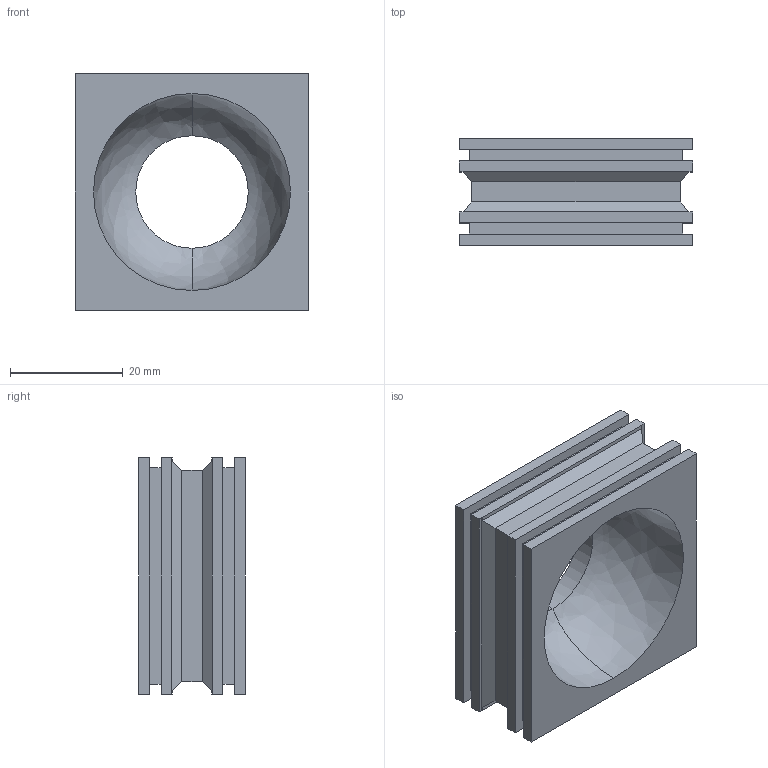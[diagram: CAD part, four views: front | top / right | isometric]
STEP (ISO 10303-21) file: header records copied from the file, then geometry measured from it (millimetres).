
FILE_DESCRIPTION (( 'STEP AP203' ), '1' );
FILE_NAME ('041823 KTB-B.STEP', '2023-03-07T06:54:48', ( '' ), ( '' ), 'SwSTEP 2.0', 'SolidWorks 2016', '' );
FILE_SCHEMA (( 'CONFIG_CONTROL_DESIGN' ));
Length unit declared in the file: millimetre
Products named in the file (1): 041823 KTB-B
Bounding box: 41.5 x 19 x 42 mm (x, y, z)
Volume: 17054 mm3; surface area: 8672.2 mm2
Topology: 1 solids, 1 shells, 54 faces, 134 edges, 86 vertices
Faces by surface type: plane 50, bspline 2, cylinder 2
Entity records: 1669 total; most frequent: CARTESIAN_POINT 311, ORIENTED_EDGE 268, DIRECTION 244, EDGE_CURVE 134, LINE 126, VECTOR 126, VERTEX_POINT 86, EDGE_LOOP 60
